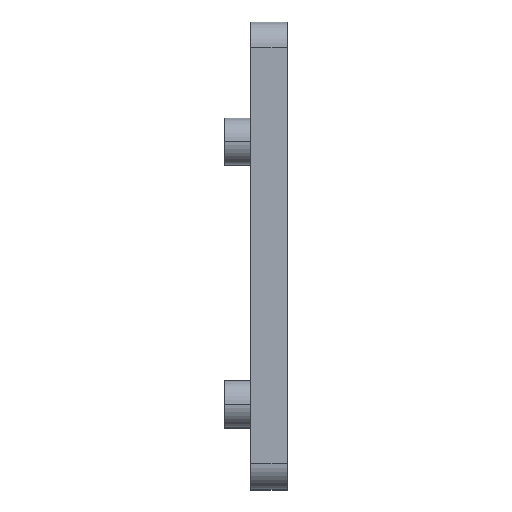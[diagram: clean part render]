
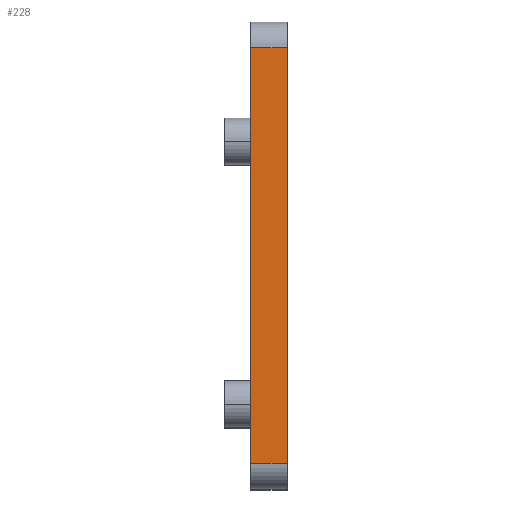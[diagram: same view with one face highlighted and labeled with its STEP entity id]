
A CAD part, top view. The second image highlights one B-rep face of the part: STEP entity #228.
In plain terms, the highlighted planar face has unit normal (0, 0, 1).
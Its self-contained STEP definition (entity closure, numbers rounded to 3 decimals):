
#79 = CARTESIAN_POINT ( 'NONE',  ( -2., -5., 0. ) ) ;
#228 = ADVANCED_FACE ( 'NONE', ( #3368 ), #771, .F. ) ;
#310 = ORIENTED_EDGE ( 'NONE', *, *, #2308, .T. ) ;
#420 = LINE ( 'NONE', #3744, #3581 ) ;
#435 = CARTESIAN_POINT ( 'NONE',  ( -2., -85., 0. ) ) ;
#568 = ORIENTED_EDGE ( 'NONE', *, *, #981, .F. ) ;
#646 = VERTEX_POINT ( 'NONE', #1111 ) ;
#667 = CARTESIAN_POINT ( 'NONE',  ( 5., -85., 0. ) ) ;
#771 = PLANE ( 'NONE',  #2183 ) ;
#981 = EDGE_CURVE ( 'NONE', #3525, #646, #1527, .T. ) ;
#1111 = CARTESIAN_POINT ( 'NONE',  ( 5., -85., 0. ) ) ;
#1332 = VERTEX_POINT ( 'NONE', #435 ) ;
#1523 = EDGE_CURVE ( 'NONE', #1332, #2181, #2963, .T. ) ;
#1527 = LINE ( 'NONE', #3436, #2306 ) ;
#1646 = LINE ( 'NONE', #667, #4125 ) ;
#1968 = DIRECTION ( 'NONE',  ( 1., 0., 0. ) ) ;
#2181 = VERTEX_POINT ( 'NONE', #79 ) ;
#2183 = AXIS2_PLACEMENT_3D ( 'NONE', #3049, #3650, #3732 ) ;
#2189 = EDGE_LOOP ( 'NONE', ( #2259, #3089, #568, #310 ) ) ;
#2259 = ORIENTED_EDGE ( 'NONE', *, *, #1523, .F. ) ;
#2306 = VECTOR ( 'NONE', #2778, 1000. ) ;
#2308 = EDGE_CURVE ( 'NONE', #3525, #2181, #420, .T. ) ;
#2511 = VECTOR ( 'NONE', #3008, 1000. ) ;
#2778 = DIRECTION ( 'NONE',  ( 0., -1., 0. ) ) ;
#2940 = CARTESIAN_POINT ( 'NONE',  ( -2., 0., 0. ) ) ;
#2963 = LINE ( 'NONE', #2940, #2511 ) ;
#3008 = DIRECTION ( 'NONE',  ( 0., 1., 0. ) ) ;
#3013 = EDGE_CURVE ( 'NONE', #1332, #646, #1646, .T. ) ;
#3049 = CARTESIAN_POINT ( 'NONE',  ( 5., 0., 0. ) ) ;
#3089 = ORIENTED_EDGE ( 'NONE', *, *, #3013, .T. ) ;
#3368 = FACE_OUTER_BOUND ( 'NONE', #2189, .T. ) ;
#3436 = CARTESIAN_POINT ( 'NONE',  ( 5., 0., 0. ) ) ;
#3525 = VERTEX_POINT ( 'NONE', #3983 ) ;
#3581 = VECTOR ( 'NONE', #3787, 1000. ) ;
#3650 = DIRECTION ( 'NONE',  ( 0., 0., -1. ) ) ;
#3732 = DIRECTION ( 'NONE',  ( 0., 1., 0. ) ) ;
#3744 = CARTESIAN_POINT ( 'NONE',  ( 5., -5., 0. ) ) ;
#3787 = DIRECTION ( 'NONE',  ( -1., 0., 0. ) ) ;
#3983 = CARTESIAN_POINT ( 'NONE',  ( 5., -5., 0. ) ) ;
#4125 = VECTOR ( 'NONE', #1968, 1000. ) ;
